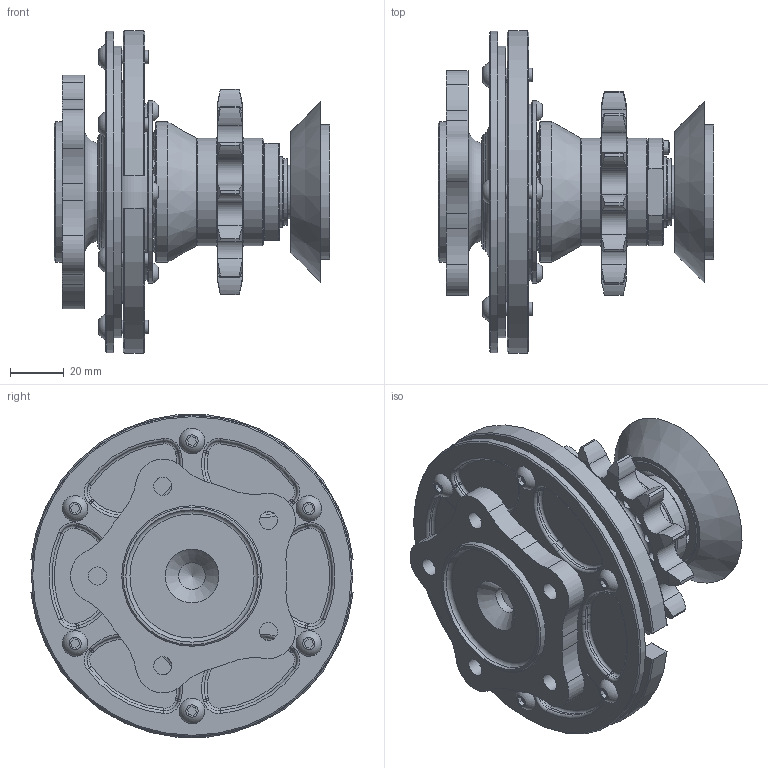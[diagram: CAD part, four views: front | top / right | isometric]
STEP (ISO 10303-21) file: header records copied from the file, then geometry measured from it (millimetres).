
FILE_DESCRIPTION(('STEP AP214'),'1');
FILE_NAME('Z:/J/Jp3/Axe de barre a pignon/Axe de barre light version 2011/Axe de barre light.step','2012-02-23T13:48:01',(' '),(' '),'Spatial InterOp 3D',' ',' ');
FILE_SCHEMA(('automotive_design'));
Length unit declared in the file: metre
Products named in the file (61): Axe de transmission; Platine arriere; Rlt à une rangée de billes, à contact radial 30×55×13 - 6006; Contre-plaque; Pignon 5/8 z13; Ecrou; Clavette; Rlt à une rangée de billes, à contact radial 20×42×12 - 6004; screw; vis C HC à tête cylindrique bombée plate M5-16; Platine avant; vis C HC à tête cylindrique bombée plate M4-10; Butée à billes; Billes; Rondelle de bloquage
Bounding box: 102 x 119.4 x 119.55 mm (x, y, z)
Volume: 270057.9 mm3; surface area: 129187.4 mm2
Topology: 61 solids, 61 shells, 881 faces, 2135 edges, 1341 vertices
Faces by surface type: plane 300, cylinder 280, cone 132, torus 124, sphere 45
Full cylindrical faces by diameter (mm): 3.3 x8, 4 x31, 4.2 x7, 5 x25, 5.2 x6, 6.75 x5, 10 x1, 20 x2, 24.5 x2, 26 x1, 27.7 x2, 30 x3, 30.2 x1, 34.3 x2, 35 x2, 35.8 x1, 36 x1, 37 x2, 38.75 x2, 39 x1, 40 x3, 41 x2, 42 x3, 46.25 x2, 47 x1, 49 x1, 50 x1, 52 x4, 55 x2, 67.6 x1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
Entity records: 33912 total; most frequent: CARTESIAN_POINT 6418, DIRECTION 4462, ORIENTED_EDGE 3574, AXIS2_PLACEMENT_3D 1943, EDGE_CURVE 1787, VERTEX_POINT 1243, EDGE_LOOP 1190, FACE_OUTER_BOUND 1023
